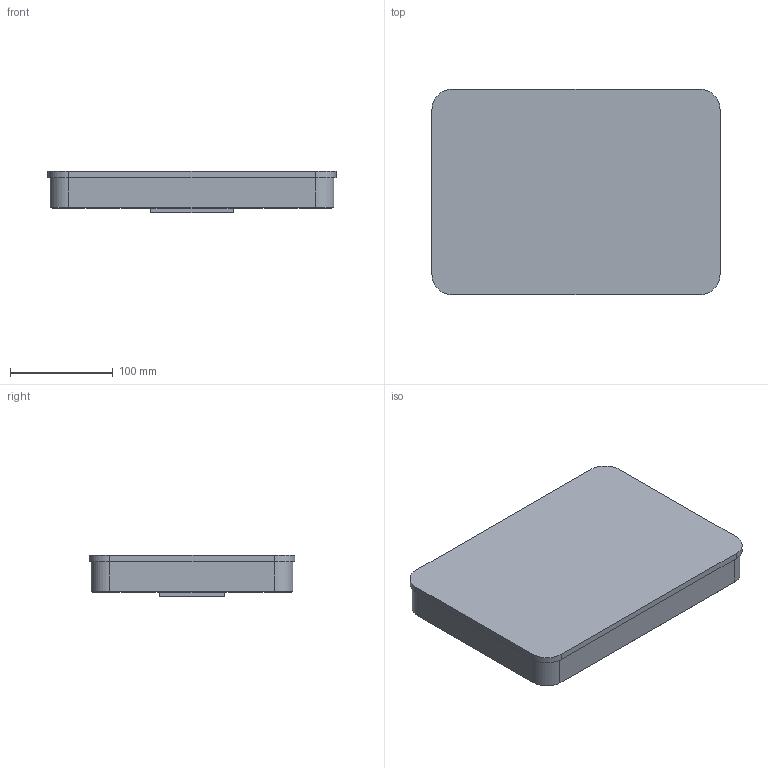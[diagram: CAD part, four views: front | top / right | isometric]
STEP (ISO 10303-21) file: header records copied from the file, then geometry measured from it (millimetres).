
FILE_DESCRIPTION(('Open CASCADE Model'),'2;1');
FILE_NAME('Open CASCADE Shape Model','2026-09-07T11:12:44',('Author'),( 'Open CASCADE'),'Open CASCADE STEP processor 7.9','Open CASCADE 7.9' ,'Unknown');
FILE_SCHEMA(('AUTOMOTIVE_DESIGN { 1 0 10303 214 1 1 1 1 }'));
Length unit declared in the file: millimetre
Products named in the file (1): Open CASCADE STEP translator 7.9 3
Bounding box: 280 x 200 x 40 mm (x, y, z)
Volume: 840799.1 mm3; surface area: 290925.7 mm2
Topology: 1 solids, 1 shells, 242 faces, 699 edges, 466 vertices
Faces by surface type: plane 229, cylinder 13
Full cylindrical faces by diameter (mm): 24 x1
Entity records: 16437 total; most frequent: CARTESIAN_POINT 3372, DIRECTION 2088, LINE 1533, VECTOR 1533, ORIENTED_EDGE 1398, PCURVE 1398, DEFINITIONAL_REPRESENTATION 1398, EDGE_CURVE 699
